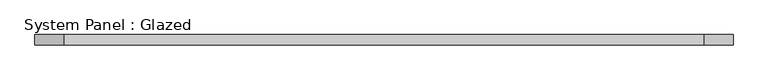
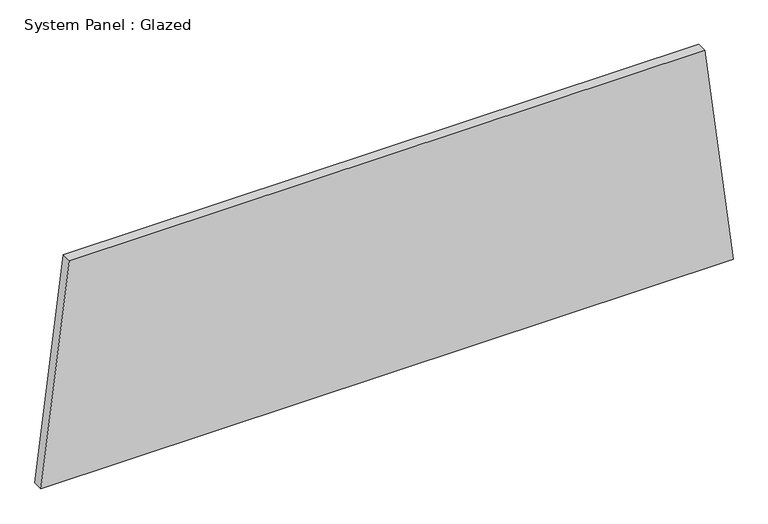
"""IFC4 building model written with IfcOpenShell, lengths in millimetres: plate geometry, System Panel : Glazed."""

import ifcopenshell
import ifcopenshell.guid

model = None  # the IFC model being written
_history = None  # IfcOwnerHistory: only IFC2X3 demands one
_inside = {}  # id of a spatial element -> (the spatial element, [elements in it])
_under = {}  # id of a project, library or spatial element -> (it, [spatial elements below it])
_declared = {}  # id of a project -> (the project, [libraries it declares])
_typed = {}  # id of a type object -> (the type object, [elements of that type])
_made_of = {}  # id of a material, layer set ... -> (it, [elements and type objects made of it])


def new_model(schema):
    """Start an empty IFC model of exactly this schema.

    Asked for "IFC4X3", IfcOpenShell would pick the latest addendum, in which some entities
    have other attributes; the version numbers below select the first issue.
    IFC2X3 requires an IfcOwnerHistory on every rooted entity: one is made here for all.
    """
    global model, _history
    if schema == "IFC4X3":
        model = ifcopenshell.file(schema_version=(4, 3, 0, 0))
    else:
        model = ifcopenshell.file(schema=schema)
    _inside.clear()
    _under.clear()
    _declared.clear()
    _typed.clear()
    _made_of.clear()
    _history = None
    if model.schema == "IFC2X3":
        org = make("IfcOrganization", Name="unknown")
        user = make(
            "IfcPersonAndOrganization",
            ThePerson=make("IfcPerson", FamilyName="unknown"),
            TheOrganization=org,
        )
        app = make(
            "IfcApplication",
            ApplicationDeveloper=org,
            Version="unknown",
            ApplicationFullName="unknown",
            ApplicationIdentifier="unknown",
        )
        _history = make(
            "IfcOwnerHistory",
            OwningUser=user,
            OwningApplication=app,
            ChangeAction="ADDED",
            CreationDate=0,
        )
    return model


def make(cls, **values):
    """One entity of the class cls with the attributes given. An attribute that is None is left unset."""
    return model.create_entity(
        cls, **{name: value for name, value in values.items() if value is not None}
    )


def rooted(cls, **values):
    """An entity with a GlobalId (a new one), such as an element, a storey or a relation."""
    return make(cls, GlobalId=ifcopenshell.guid.new(), OwnerHistory=_history, **values)


def si_unit(unit_type, name, prefix=None):
    """IfcSIUnit, for example si_unit("LENGTHUNIT", "METRE", prefix="MILLI")."""
    return make("IfcSIUnit", UnitType=unit_type, Prefix=prefix, Name=name)


def assignment(units):
    """IfcUnitAssignment: the units of a project."""
    return None if units is None else make("IfcUnitAssignment", Units=units)


def point(xyz):
    """IfcCartesianPoint."""
    return None if xyz is None else make("IfcCartesianPoint", Coordinates=xyz)


def direction(xyz):
    """IfcDirection."""
    return None if xyz is None else make("IfcDirection", DirectionRatios=xyz)


def frame(location, z_axis=None, x_axis=None):
    """IfcAxis2Placement3D, a coordinate frame: its origin and axes. An axis left out is left unset."""
    return make(
        "IfcAxis2Placement3D",
        Location=point(location),
        Axis=direction(z_axis),
        RefDirection=direction(x_axis),
    )


def origin():
    """The frame at (0, 0, 0) with its axes left unset."""
    return frame((0.0, 0.0, 0.0))


def place(relative_to, where):
    """IfcLocalPlacement: puts the frame where relative to a parent placement (None: the world)."""
    return make(
        "IfcLocalPlacement", PlacementRelTo=relative_to, RelativePlacement=where
    )


def context(
    kind, dimensions, precision=None, world=None, true_north=None, identifier=None
):
    """IfcGeometricRepresentationContext, for example the 3D "Model" context."""
    return make(
        "IfcGeometricRepresentationContext",
        ContextIdentifier=identifier,
        ContextType=kind,
        CoordinateSpaceDimension=dimensions,
        Precision=precision,
        WorldCoordinateSystem=world,
        TrueNorth=true_north,
    )


def project(units=None, contexts=None):
    """IfcProject with its units and contexts."""
    return rooted(
        "IfcProject",
        Name="project",
        RepresentationContexts=contexts,
        UnitsInContext=assignment(units),
    )


def spatial(cls, under=None, at=None, **own):
    """A site, building, storey or space (cls), placed at a placement, below another one or the project."""
    s = rooted(cls, ObjectPlacement=at, **own)
    if under is not None:
        _under.setdefault(under.id(), (under, []))[1].append(s)
    return s


def polyline(points):
    """IfcPolyline through the points."""
    return make("IfcPolyline", Points=[point(p) for p in points])


def outline(outer, holes=None, kind="AREA"):
    """IfcArbitraryClosedProfileDef: a profile drawn as a closed curve; with holes, ...WithVoids."""
    if holes is None:
        return make("IfcArbitraryClosedProfileDef", ProfileType=kind, OuterCurve=outer)
    return make(
        "IfcArbitraryProfileDefWithVoids",
        ProfileType=kind,
        OuterCurve=outer,
        InnerCurves=holes,
    )


def extrude(swept, where, along, depth):
    """IfcExtrudedAreaSolid: the profile swept, set in the frame where, extruded along a direction by depth."""
    return make(
        "IfcExtrudedAreaSolid",
        SweptArea=swept,
        Position=where,
        ExtrudedDirection=direction(along),
        Depth=depth,
    )


def shape(context_of_items, identifier, shape_type, items):
    """IfcShapeRepresentation: the items that make up one representation, for example the "Body"."""
    return make(
        "IfcShapeRepresentation",
        ContextOfItems=context_of_items,
        RepresentationIdentifier=identifier,
        RepresentationType=shape_type,
        Items=items,
    )


def source(mapping_origin, context_of_items, identifier, shape_type, items):
    """IfcRepresentationMap: a shape defined once, which mapped items show again and again."""
    return make(
        "IfcRepresentationMap",
        MappingOrigin=mapping_origin,
        MappedRepresentation=shape(context_of_items, identifier, shape_type, items),
    )


def transform(
    local_origin,
    x_axis=None,
    y_axis=None,
    z_axis=None,
    scale=None,
    scale2=None,
    scale3=None,
    uniform=True,
):
    """IfcCartesianTransformationOperator3D, or its non-uniform kind. x_axis, y_axis, z_axis: its Axis1, 2, 3."""
    if uniform:
        return make(
            "IfcCartesianTransformationOperator3D",
            Axis1=direction(x_axis),
            Axis2=direction(y_axis),
            LocalOrigin=point(local_origin),
            Scale=scale,
            Axis3=direction(z_axis),
        )
    return make(
        "IfcCartesianTransformationOperator3DnonUniform",
        Axis1=direction(x_axis),
        Axis2=direction(y_axis),
        LocalOrigin=point(local_origin),
        Scale=scale,
        Axis3=direction(z_axis),
        Scale2=scale2,
        Scale3=scale3,
    )


def mapped(mapping_source, mapping_target):
    """IfcMappedItem: shows the shape of a source again, moved by a transform."""
    return make(
        "IfcMappedItem", MappingSource=mapping_source, MappingTarget=mapping_target
    )


def made_of(thing, what):
    """Note that an element or type object is made of a material, layer set ...; save() writes the relation."""
    if what is not None:
        _made_of.setdefault(what.id(), (what, []))[1].append(thing)
    return thing


def element(
    cls,
    number,
    at=None,
    inside=None,
    cuts=None,
    type_object=None,
    material=None,
    context=None,
    identifier="Body",
    shape_type=None,
    held_by="IfcProductDefinitionShape",
    body=None,
    shapes=None,
    **own,
):
    """One element of the class cls, such as IfcWall. Its Tag is "e" and its number.

    at: its placement. inside: the storey or other place that contains it. cuts: it is an
    opening in that element (IfcRelVoidsElement). A single representation is given by context,
    identifier, shape_type and body (its items); several are given by shapes. held_by: the class
    of the entity that holds the representations. save() writes the other relations.
    """
    e = rooted(cls, Tag="e%d" % number, ObjectPlacement=at, **own)
    if body is not None:
        shapes = [shape(context, identifier, shape_type, body)]
    if shapes is not None:
        e.Representation = make(held_by, Representations=shapes)
    if inside is not None:
        _inside.setdefault(inside.id(), (inside, []))[1].append(e)
    if cuts is not None:
        rooted(
            "IfcRelVoidsElement", RelatingBuildingElement=cuts, RelatedOpeningElement=e
        )
    if type_object is not None:
        _typed.setdefault(type_object.id(), (type_object, []))[1].append(e)
    return made_of(e, material)


def aggregate(whole, parts):
    """IfcRelAggregates: a whole, such as a stair, and the parts it consists of."""
    return rooted("IfcRelAggregates", RelatingObject=whole, RelatedObjects=parts)


def save(model, path):
    """Write the relations noted so far, then the file.

    IfcRelAggregates (storeys below a building ...), IfcRelContainedInSpatialStructure (elements
    in a storey), IfcRelDefinesByType, IfcRelAssociatesMaterial and IfcRelDeclares: one each for
    every whole, place, type object, material and project.
    """
    for whole, parts in _under.values():
        aggregate(whole, parts)
    for where, things in _inside.values():
        rooted(
            "IfcRelContainedInSpatialStructure",
            RelatedElements=things,
            RelatingStructure=where,
        )
    for kind, things in _typed.values():
        rooted("IfcRelDefinesByType", RelatedObjects=things, RelatingType=kind)
    for what, things in _made_of.values():
        rooted("IfcRelAssociatesMaterial", RelatedObjects=things, RelatingMaterial=what)
    for by, libraries in _declared.values():
        rooted("IfcRelDeclares", RelatingContext=by, RelatedDefinitions=libraries)
    model.write(path)


def system_panel_glazed_847a2d71(model_context):
    return source(origin(), model_context, "Body", "SweptSolid", [
        extrude(outline(polyline([(0.0, -868.1737065), (0.0, 868.1737065), (579.6314374, 796.80858), (579.6314374, -796.80858), (0.0, -868.1737065)])), frame((0.0, 19.05, 0.0), z_axis=(0.0, 1.0, 0.0), x_axis=(0.0, 0.0, 1.0)), (0.0, 0.0, 1.0), 25.4),
    ])


if __name__ == "__main__":
    model = new_model("IFC4")
    model_context = context("Model", 3, world=origin())
    ifc_project = project(units=[si_unit("LENGTHUNIT", "METRE", prefix="MILLI")], contexts=[model_context])
    site = spatial("IfcSite", under=ifc_project)
    building = spatial("IfcBuilding", under=site)
    placement = place(None, origin())
    system_panel_glazed_shape = system_panel_glazed_847a2d71(model_context)
    element("IfcPlate", 1, ObjectType="System Panel : Glazed", at=placement, inside=building, context=model_context, shape_type="MappedRepresentation", body=[
        mapped(system_panel_glazed_shape, transform((0.0, 0.0, 0.0), x_axis=(1.0, 0.0, 0.0), y_axis=(0.0, 1.0, 0.0), z_axis=(0.0, 0.0, 1.0))),
    ])
    save(model, "model.ifc")
